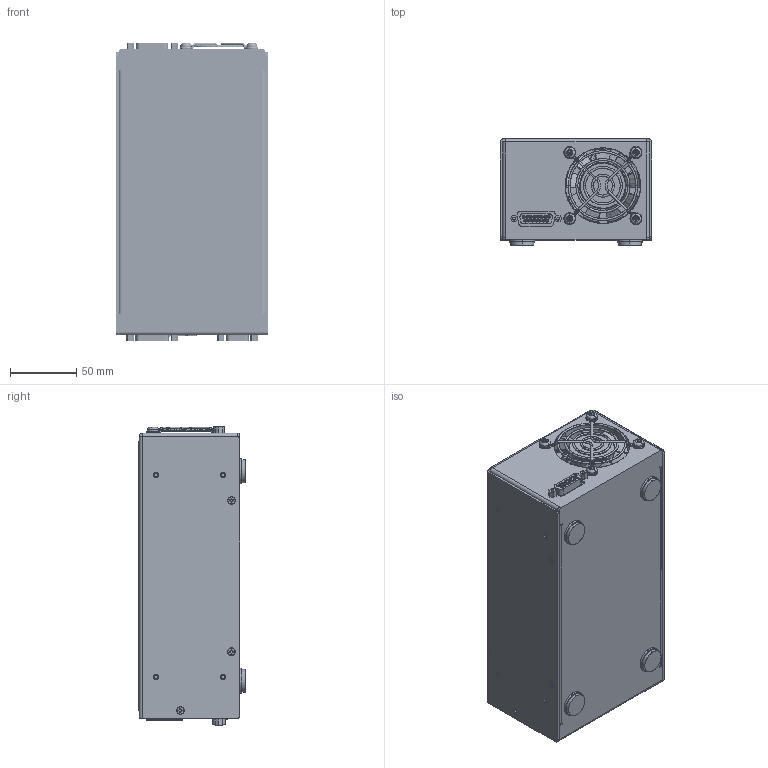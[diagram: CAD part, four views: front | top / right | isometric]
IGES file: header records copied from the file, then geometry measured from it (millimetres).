
Start section: SolidWorks IGES file using analytic representation for surfaces
Global section: file name: C:\Users\Mike\Dropbox\Mechanical Engr\Development Projects (P)\585 TECPak\CUSTOMER MODEL DEVELOPMENT\Step 4 - 585-TECPak.IGS; native system: SolidWorks 2014; preprocessor: SolidWorks 2014; author: Mike; date: 150902.212323; units: inch
Bounding box: 114.3 x 80.52 x 225.53 mm (x, y, z)
Surface area: 126432.6 mm2 (no closed solid volume)
Topology: 0 solids, 0 shells, 2518 faces, 28065 edges, 28044 vertices
Faces by surface type: bspline 1808, revolution 710
